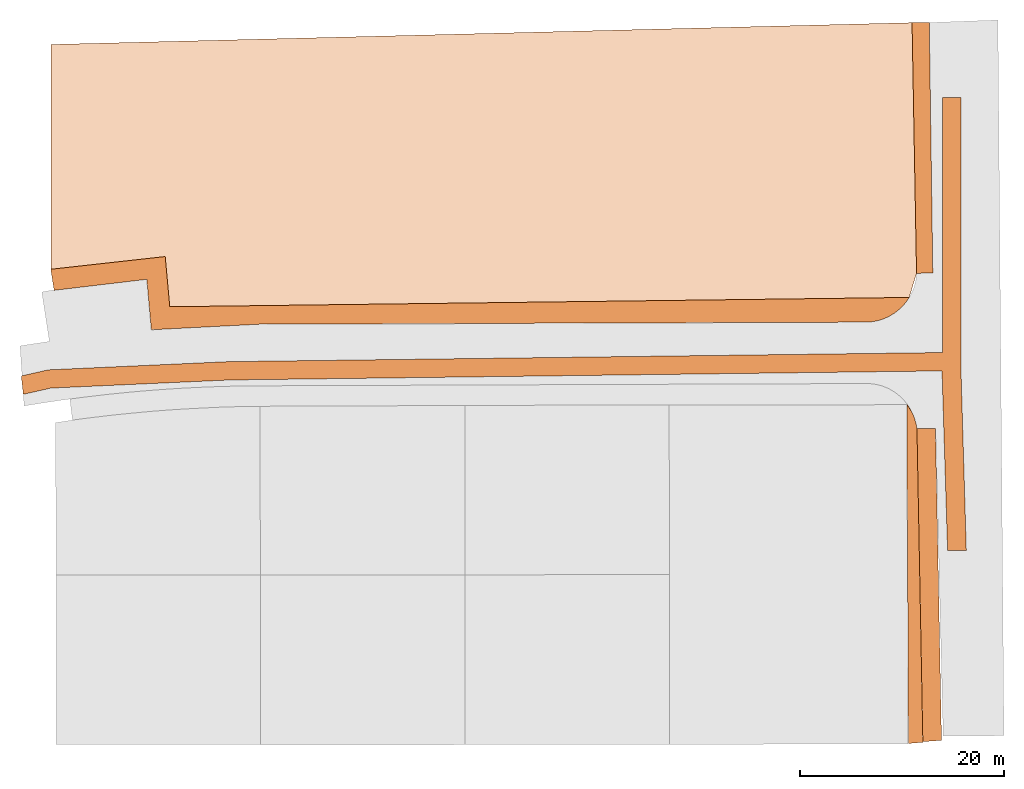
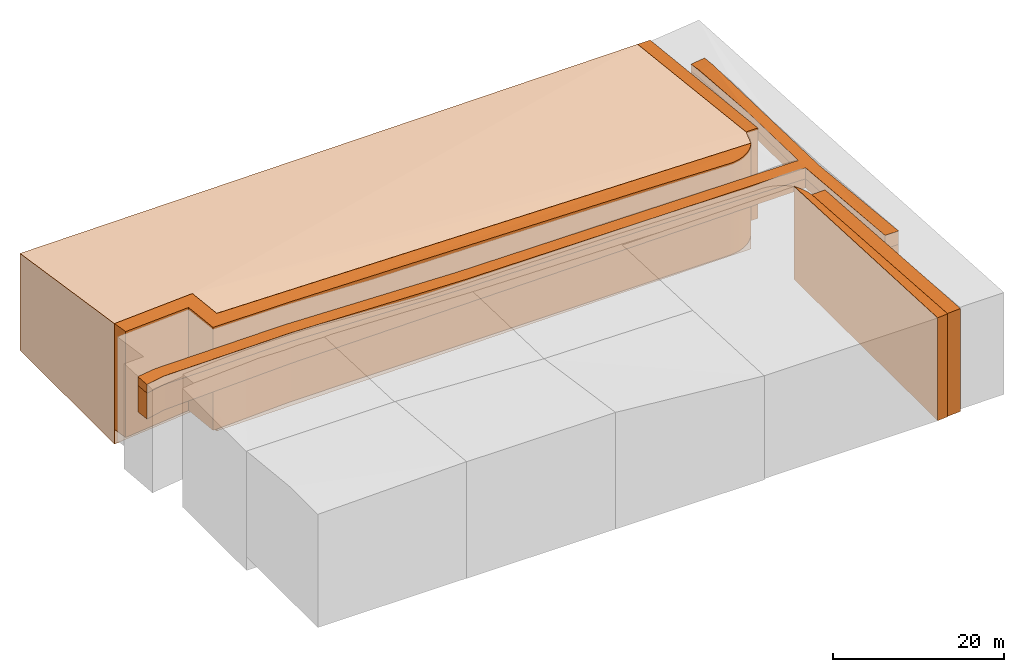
# Not in any storey, part 2 of 2: 7 geographic elements.
"""IFC4 model written with IfcOpenShell, lengths in metres."""

import ifcopenshell
import ifcopenshell.guid

model = None  # the IFC model being written
_history = None  # IfcOwnerHistory: only IFC2X3 demands one
_inside = {}  # id of a spatial element -> (the spatial element, [elements in it])
_under = {}  # id of a project, library or spatial element -> (it, [spatial elements below it])
_declared = {}  # id of a project -> (the project, [libraries it declares])
_typed = {}  # id of a type object -> (the type object, [elements of that type])
_made_of = {}  # id of a material, layer set ... -> (it, [elements and type objects made of it])


def new_model(schema):
    """Start an empty IFC model of exactly this schema.

    Asked for "IFC4X3", IfcOpenShell would pick the latest addendum, in which some entities
    have other attributes; the version numbers below select the first issue.
    IFC2X3 requires an IfcOwnerHistory on every rooted entity: one is made here for all.
    """
    global model, _history
    if schema == "IFC4X3":
        model = ifcopenshell.file(schema_version=(4, 3, 0, 0))
    else:
        model = ifcopenshell.file(schema=schema)
    _inside.clear()
    _under.clear()
    _declared.clear()
    _typed.clear()
    _made_of.clear()
    _history = None
    if model.schema == "IFC2X3":
        org = make("IfcOrganization", Name="unknown")
        user = make(
            "IfcPersonAndOrganization",
            ThePerson=make("IfcPerson", FamilyName="unknown"),
            TheOrganization=org,
        )
        app = make(
            "IfcApplication",
            ApplicationDeveloper=org,
            Version="unknown",
            ApplicationFullName="unknown",
            ApplicationIdentifier="unknown",
        )
        _history = make(
            "IfcOwnerHistory",
            OwningUser=user,
            OwningApplication=app,
            ChangeAction="ADDED",
            CreationDate=0,
        )
    return model


def make(cls, **values):
    """One entity of the class cls with the attributes given. An attribute that is None is left unset."""
    return model.create_entity(
        cls, **{name: value for name, value in values.items() if value is not None}
    )


def entity(cls, *values):
    """Any entity or typed value of the class cls, its attributes in the order of the schema. None: left unset."""
    e = model.create_entity(cls)
    for i, value in enumerate(values):
        if value is not None:
            e[i] = value
    return e


def rooted(cls, **values):
    """An entity with a GlobalId (a new one), such as an element, a storey or a relation."""
    return make(cls, GlobalId=ifcopenshell.guid.new(), OwnerHistory=_history, **values)


def si_unit(unit_type, name, prefix=None):
    """IfcSIUnit, for example si_unit("LENGTHUNIT", "METRE", prefix="MILLI")."""
    return make("IfcSIUnit", UnitType=unit_type, Prefix=prefix, Name=name)


def converted_unit(unit_type, name, factor, base, dimensions=None, offset=None):
    """IfcConversionBasedUnit, such as the inch: factor (a typed value) times the base unit."""
    return make(
        "IfcConversionBasedUnit"
        if offset is None
        else "IfcConversionBasedUnitWithOffset",
        ConversionOffset=offset,
        Dimensions=None
        if dimensions is None
        else entity("IfcDimensionalExponents", *dimensions),
        UnitType=unit_type,
        Name=name,
        ConversionFactor=make(
            "IfcMeasureWithUnit", ValueComponent=factor, UnitComponent=base
        ),
    )


def derived_unit(unit_type, elements):
    """IfcDerivedUnit: a product of units, each with its exponent."""
    return make(
        "IfcDerivedUnit",
        Elements=[
            make("IfcDerivedUnitElement", Unit=unit, Exponent=power)
            for unit, power in elements
        ],
        UnitType=unit_type,
    )


def assignment(units):
    """IfcUnitAssignment: the units of a project."""
    return None if units is None else make("IfcUnitAssignment", Units=units)


def point(xyz):
    """IfcCartesianPoint."""
    return None if xyz is None else make("IfcCartesianPoint", Coordinates=xyz)


def direction(xyz):
    """IfcDirection."""
    return None if xyz is None else make("IfcDirection", DirectionRatios=xyz)


def frame(location, z_axis=None, x_axis=None):
    """IfcAxis2Placement3D, a coordinate frame: its origin and axes. An axis left out is left unset."""
    return make(
        "IfcAxis2Placement3D",
        Location=point(location),
        Axis=direction(z_axis),
        RefDirection=direction(x_axis),
    )


def origin_with_axes():
    """The frame at (0, 0, 0) with the z axis (0, 0, 1) and the x axis (1, 0, 0) written out."""
    return frame((0.0, 0.0, 0.0), z_axis=(0.0, 0.0, 1.0), x_axis=(1.0, 0.0, 0.0))


def place(relative_to, where):
    """IfcLocalPlacement: puts the frame where relative to a parent placement (None: the world)."""
    return make(
        "IfcLocalPlacement", PlacementRelTo=relative_to, RelativePlacement=where
    )


def context(
    kind, dimensions, precision=None, world=None, true_north=None, identifier=None
):
    """IfcGeometricRepresentationContext, for example the 3D "Model" context."""
    return make(
        "IfcGeometricRepresentationContext",
        ContextIdentifier=identifier,
        ContextType=kind,
        CoordinateSpaceDimension=dimensions,
        Precision=precision,
        WorldCoordinateSystem=world,
        TrueNorth=true_north,
    )


def subcontext(parent, identifier, kind, view, scale=None):
    """IfcGeometricRepresentationSubContext, for example "Body" below "Model"."""
    return make(
        "IfcGeometricRepresentationSubContext",
        ContextIdentifier=identifier,
        ContextType=kind,
        ParentContext=parent,
        TargetScale=scale,
        TargetView=view,
    )


def project(units=None, contexts=None):
    """IfcProject with its units and contexts."""
    return rooted(
        "IfcProject",
        Name="project",
        RepresentationContexts=contexts,
        UnitsInContext=assignment(units),
    )


def spatial(cls, under=None, at=None, **own):
    """A site, building, storey or space (cls), placed at a placement, below another one or the project."""
    s = rooted(cls, ObjectPlacement=at, **own)
    if under is not None:
        _under.setdefault(under.id(), (under, []))[1].append(s)
    return s


def point_list(points):
    """IfcCartesianPointList2D or 3D."""
    cls = (
        "IfcCartesianPointList2D" if len(points[0]) == 2 else "IfcCartesianPointList3D"
    )
    return make(cls, CoordList=points)


def polygons(points, faces, closed=None, point_numbers=None):
    """IfcPolygonalFaceSet: a face is its outer loop, then its inner loops; points numbered from 1."""
    made = []
    for loops in faces:
        if len(loops) == 1:
            made.append(make("IfcIndexedPolygonalFace", CoordIndex=loops[0]))
        else:
            made.append(
                make(
                    "IfcIndexedPolygonalFaceWithVoids",
                    CoordIndex=loops[0],
                    InnerCoordIndices=loops[1:],
                )
            )
    return make(
        "IfcPolygonalFaceSet",
        Coordinates=point_list(points),
        Closed=closed,
        Faces=made,
        PnIndex=point_numbers,
    )


def shape(context_of_items, identifier, shape_type, items):
    """IfcShapeRepresentation: the items that make up one representation, for example the "Body"."""
    return make(
        "IfcShapeRepresentation",
        ContextOfItems=context_of_items,
        RepresentationIdentifier=identifier,
        RepresentationType=shape_type,
        Items=items,
    )


def material(Name=None, Category=None):
    """IfcMaterial."""
    return make("IfcMaterial", Name=Name, Category=Category)


def made_of(thing, what):
    """Note that an element or type object is made of a material, layer set ...; save() writes the relation."""
    if what is not None:
        _made_of.setdefault(what.id(), (what, []))[1].append(thing)
    return thing


def type_object(cls, material=None, **own):
    """A type object (cls), such as IfcWallType, which elements share."""
    return made_of(rooted(cls, **own), material)


def element(
    cls,
    number,
    at=None,
    inside=None,
    cuts=None,
    type_object=None,
    material=None,
    context=None,
    identifier="Body",
    shape_type=None,
    held_by="IfcProductDefinitionShape",
    body=None,
    shapes=None,
    **own,
):
    """One element of the class cls, such as IfcWall. Its Tag is "e" and its number.

    at: its placement. inside: the storey or other place that contains it. cuts: it is an
    opening in that element (IfcRelVoidsElement). A single representation is given by context,
    identifier, shape_type and body (its items); several are given by shapes. held_by: the class
    of the entity that holds the representations. save() writes the other relations.
    """
    e = rooted(cls, Tag="e%d" % number, ObjectPlacement=at, **own)
    if body is not None:
        shapes = [shape(context, identifier, shape_type, body)]
    if shapes is not None:
        e.Representation = make(held_by, Representations=shapes)
    if inside is not None:
        _inside.setdefault(inside.id(), (inside, []))[1].append(e)
    if cuts is not None:
        rooted(
            "IfcRelVoidsElement", RelatingBuildingElement=cuts, RelatedOpeningElement=e
        )
    if type_object is not None:
        _typed.setdefault(type_object.id(), (type_object, []))[1].append(e)
    return made_of(e, material)


def aggregate(whole, parts):
    """IfcRelAggregates: a whole, such as a stair, and the parts it consists of."""
    return rooted("IfcRelAggregates", RelatingObject=whole, RelatedObjects=parts)


def save(model, path):
    """Write the relations noted so far, then the file.

    IfcRelAggregates (storeys below a building ...), IfcRelContainedInSpatialStructure (elements
    in a storey), IfcRelDefinesByType, IfcRelAssociatesMaterial and IfcRelDeclares: one each for
    every whole, place, type object, material and project.
    """
    for whole, parts in _under.values():
        aggregate(whole, parts)
    for where, things in _inside.values():
        rooted(
            "IfcRelContainedInSpatialStructure",
            RelatedElements=things,
            RelatingStructure=where,
        )
    for kind, things in _typed.values():
        rooted("IfcRelDefinesByType", RelatedObjects=things, RelatingType=kind)
    for what, things in _made_of.values():
        rooted("IfcRelAssociatesMaterial", RelatedObjects=things, RelatingMaterial=what)
    for by, libraries in _declared.values():
        rooted("IfcRelDeclares", RelatingContext=by, RelatedDefinitions=libraries)
    model.write(path)


model = new_model("IFC4")

# Units and contexts
model_context = context("Model", 3, precision=1e-05, world=origin_with_axes(), true_north=direction((0.0, 1.0)))
body_context = subcontext(model_context, "Body", "Model", "MODEL_VIEW")
ifc_project = project(units=[si_unit("LENGTHUNIT", "METRE"), si_unit("AREAUNIT", "SQUARE_METRE"), si_unit("VOLUMEUNIT", "CUBIC_METRE"), converted_unit("PLANEANGLEUNIT", "DEGREE", entity("IfcPlaneAngleMeasure", 0.0174532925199), si_unit("PLANEANGLEUNIT", "RADIAN"), dimensions=[0, 0, 0, 0, 0, 0, 0]), si_unit("SOLIDANGLEUNIT", "STERADIAN"), converted_unit("TIMEUNIT", "Year", entity("IfcTimeMeasure", 31556926.0), si_unit("TIMEUNIT", "SECOND"), dimensions=[0, 0, 1, 0, 0, 0, 0]), si_unit("MASSUNIT", "GRAM", prefix="KILO"), si_unit("THERMODYNAMICTEMPERATUREUNIT", "DEGREE_CELSIUS"), si_unit("LUMINOUSINTENSITYUNIT", "LUMEN"), si_unit("ENERGYUNIT", "JOULE", prefix="MEGA"), derived_unit("THERMALCONDUCTANCEUNIT", [(si_unit("POWERUNIT", "WATT"), 1), (si_unit("LENGTHUNIT", "METRE"), -1), (si_unit("THERMODYNAMICTEMPERATUREUNIT", "KELVIN"), -1)]), derived_unit("SPECIFICHEATCAPACITYUNIT", [(si_unit("ENERGYUNIT", "JOULE"), 1), (si_unit("MASSUNIT", "GRAM", prefix="KILO"), -1), (si_unit("THERMODYNAMICTEMPERATUREUNIT", "KELVIN"), -1)]), derived_unit("MASSDENSITYUNIT", [(si_unit("MASSUNIT", "GRAM", prefix="KILO"), 1), (si_unit("VOLUMEUNIT", "CUBIC_METRE"), -1)])], contexts=[model_context])

# Site
site_placement = place(None, origin_with_axes())
site = spatial("IfcSite", under=ifc_project, at=site_placement, Name="Site", CompositionType="ELEMENT")

# Geographic elements
ifc_material = material(Name="Env. - Terre")
geographic_element_type = type_object("IfcGeographicElementType", Name="Env. - Terre", PredefinedType="NOTDEFINED")
geographic_element_1_placement = place(site_placement, frame((2.46168446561, 12.806106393, 24.3240901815), z_axis=(0.0, 0.0, 1.0), x_axis=(1.0, 0.0, 0.0)))
element("IfcGeographicElement", 1, at=geographic_element_1_placement, inside=site, type_object=geographic_element_type, material=ifc_material, Name="TERRAIN-002", PredefinedType="NOTDEFINED", context=body_context, shape_type="Tessellation", body=[
    polygons([(1.6969577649, 24.6472685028, 10.6743883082), (0.0, 24.6346256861, 10.6743883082), (0.442109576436, 0.0, 12.9269394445), (0.0, 24.6346256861, 0.0), (1.6969577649, 24.6472685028, 0.0), (0.442109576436, 0.0, 0.0), (2.04093963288, 0.0301482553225, 12.9269394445), (2.04093963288, 0.0301482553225, 0.0)], [[[1, 2, 3]], [[4, 2, 1, 5]], [[6, 3, 2, 4]], [[7, 1, 3]], [[5, 1, 7, 8]], [[6, 4, 5, 8]], [[8, 7, 3, 6]]], closed=True),
])
geographic_element_2_placement = place(site_placement, frame((1.95295697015, -33.4000822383, 24.3240901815), z_axis=(0.0, 0.0, 1.0), x_axis=(1.0, 0.0, 0.0)))
element("IfcGeographicElement", 2, at=geographic_element_2_placement, inside=site, type_object=geographic_element_type, material=ifc_material, Name="TERRAIN-001", PredefinedType="NOTDEFINED", context=body_context, shape_type="Tessellation", body=[
    polygons([(0.147337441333, 0.0, 14.6948484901), (0.990224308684, 30.9352220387, 13.2481073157), (0.0, 33.3676027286, 13.3172809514), (1.5702263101, 0.117725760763, 14.6948484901), (0.750361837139, 31.9459342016, 13.2481073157), (0.147337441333, 0.0, 0.0), (0.0, 33.3676027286, 0.0), (0.990224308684, 30.9352220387, 0.0), (1.5702263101, 0.117725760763, 0.0), (0.82090533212, 31.7257423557, 13.2481073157), (0.974468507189, 31.0497513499, 13.2481073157), (0.933063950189, 31.2772299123, 13.2481073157), (0.881844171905, 31.5027013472, 13.2481073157), (0.670346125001, 32.1628634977, 13.2481073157), (0.0553366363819, 33.2963166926, 13.2481073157), (0.0553366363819, 33.2963166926, 0.0), (0.134047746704, 33.1845743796, 0.0), (0.258826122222, 32.9899177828, 0.0), (0.375055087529, 32.7900386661, 0.0), (0.482516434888, 32.5853122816, 0.0), (0.581008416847, 32.3761229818, 0.0), (0.670346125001, 32.1628634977, 0.0), (0.750361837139, 31.9459342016, 0.0), (0.82090533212, 31.7257423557, 0.0), (0.881844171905, 31.5027013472, 0.0), (0.933063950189, 31.2772299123, 0.0), (0.974468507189, 31.0497513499, 0.0), (0.581008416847, 32.3761229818, 13.2481073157), (0.134047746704, 33.1845743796, 13.2481073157), (0.258826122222, 32.9899177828, 13.2481073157), (0.375055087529, 32.7900386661, 13.2481073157), (0.482516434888, 32.5853122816, 13.2481073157)], [[[1, 2, 3]], [[4, 2, 1]], [[3, 2, 5]], [[6, 1, 3, 7]], [[8, 2, 4, 9]], [[9, 4, 1, 6]], [[10, 5, 2, 11, 12, 13]], [[5, 14, 3]], [[7, 3, 15, 16]], [[16, 17, 18, 19, 20, 21, 22, 23, 24, 25, 26, 27, 8, 9, 6, 7]], [[27, 11, 2, 8]], [[23, 5, 10, 24]], [[26, 12, 11, 27]], [[25, 13, 12, 26]], [[24, 10, 13, 25]], [[22, 14, 5, 23]], [[14, 28, 3]], [[15, 3, 29]], [[16, 15, 29, 17]], [[17, 29, 30, 18]], [[18, 30, 31, 19]], [[19, 31, 32, 20]], [[20, 32, 28, 21]], [[21, 28, 14, 22]], [[28, 32, 3]], [[30, 29, 3]], [[31, 30, 3]], [[32, 31, 3]]], closed=True),
])
geographic_element_3_placement = place(site_placement, frame((-82.1797845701, 7.2564483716, 24.3240901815), z_axis=(0.0, 0.0, 1.0), x_axis=(1.0, 0.0, 0.0)))
element("IfcGeographicElement", 3, at=geographic_element_3_placement, inside=site, type_object=geographic_element_type, material=ifc_material, Name="TERRAIN-001", PredefinedType="NOTDEFINED", context=body_context, shape_type="Tessellation", body=[
    polygons([(11.2480813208, 7.19648579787, 14.7128924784), (0.0, 5.94540242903, 15.1150237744), (9.43821347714, 4.9598742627, 14.7128924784), (0.0, 5.94540242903, 0.0), (11.2480813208, 7.19648579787, 0.0), (0.327218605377, 3.87691052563, 15.1150237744), (9.88625545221, 0.0, 14.7128924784), (11.6945672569, 2.26510649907, 14.7128924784), (0.327218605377, 3.87691052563, 0.0), (11.6945672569, 2.26510649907, 0.0), (84.3633383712, 3.18102994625, 0.0), (84.2704614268, 3.03086588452, 0.0), (84.1435466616, 2.84567339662, 0.0), (84.0085081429, 2.66631840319, 0.0), (83.8656139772, 2.49315699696, 0.0), (83.7151478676, 2.32653297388, 0.0), (83.5574085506, 2.16677715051, 0.0), (83.3927092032, 2.01420670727, 0.0), (83.2213768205, 1.86912455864, 0.0), (83.0437515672, 1.73181875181, 0.0), (82.8601861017, 1.60256189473, 0.0), (82.6710448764, 1.48161061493, 0.0), (82.4767034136, 1.36920504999, 0.0), (82.2775475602, 1.26556837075, 0.0), (82.0739727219, 1.17090633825, 0.0), (81.8663830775, 1.08540689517, 0.0), (81.6551907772, 1.00923979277, 0.0), (81.4408151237, 0.942556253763, 0.0), (81.2236817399, 0.885488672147, 0.0), (81.0042217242, 0.838150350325, 0.0), (80.7828707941, 0.800635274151, 0.0), (80.5600684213, 0.773017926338, 0.0), (80.3362569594, 0.755353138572, 0.0), (80.2240688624, 0.751514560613, 0.0), (20.6507647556, 0.555290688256, 0.0), (9.88625545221, 0.0, 0.0), (9.43821347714, 4.9598742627, 0.0), (20.6507647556, 0.555290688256, 14.2697889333), (84.3633383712, 3.18102994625, 13.0267088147), (84.2704614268, 3.03086588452, 13.0282535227), (84.1435466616, 2.84567339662, 13.0302641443), (84.0085081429, 2.66631840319, 13.0323148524), (83.8656139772, 2.49315699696, 13.0344015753), (83.7151478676, 2.32653297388, 13.0365201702), (83.5574085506, 2.16677715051, 13.0386664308), (83.3927092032, 2.01420670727, 13.0408360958), (83.2213768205, 1.86912455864, 13.0430248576), (83.0437515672, 1.73181875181, 13.0452283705), (82.8601861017, 1.60256189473, 13.0474422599), (82.6710448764, 1.48161061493, 13.04966213), (82.4767034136, 1.36920504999, 13.0518835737), (82.2775475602, 1.26556837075, 13.0541021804), (82.0739727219, 1.17090633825, 13.0563135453), (81.8663830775, 1.08540689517, 13.058513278), (81.6551907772, 1.00923979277, 13.060697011), (81.4408151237, 0.942556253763, 13.0628604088), (81.2236817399, 0.885488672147, 13.0649991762), (81.0042217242, 0.838150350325, 13.0671090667), (80.7828707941, 0.800635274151, 13.0691858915), (80.5600684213, 0.773017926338, 13.0712255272), (80.3362569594, 0.755353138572, 13.0732239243), (80.2240688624, 0.751514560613, 13.0742005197), (68.7534816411, 0.71373248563, 13.4005013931)], [[[1, 2, 3]], [[4, 2, 1, 5]], [[6, 3, 2]], [[3, 7, 8, 1]], [[9, 6, 2, 4]], [[5, 1, 8, 10]], [[9, 4, 5, 10, 11, 12, 13, 14, 15, 16, 17, 18, 19, 20, 21, 22, 23, 24, 25, 26, 27, 28, 29, 30, 31, 32, 33, 34, 35, 36, 37]], [[37, 3, 6, 9]], [[36, 7, 3, 37]], [[7, 38, 8]], [[10, 8, 39, 11]], [[11, 39, 40, 12]], [[12, 40, 41, 13]], [[13, 41, 42, 14]], [[14, 42, 43, 15]], [[15, 43, 44, 16]], [[16, 44, 45, 17]], [[17, 45, 46, 18]], [[18, 46, 47, 19]], [[19, 47, 48, 20]], [[20, 48, 49, 21]], [[21, 49, 50, 22]], [[22, 50, 51, 23]], [[23, 51, 52, 24]], [[24, 52, 53, 25]], [[25, 53, 54, 26]], [[26, 54, 55, 27]], [[27, 55, 56, 28]], [[28, 56, 57, 29]], [[29, 57, 58, 30]], [[30, 58, 59, 31]], [[31, 59, 60, 32]], [[32, 60, 61, 33]], [[33, 61, 62, 34]], [[34, 62, 63, 38, 35]], [[35, 38, 7, 36]], [[38, 39, 8]], [[62, 61, 60, 59, 58, 57, 56, 55, 54, 53, 52, 51, 50, 49, 48, 47, 46, 45, 44, 43, 42, 41, 40, 39]], [[63, 62, 39]], [[63, 39, 38]]], closed=True),
])
geographic_element_4_placement = place(site_placement, frame((2.94318127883, -33.2193872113, 24.3240901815), z_axis=(0.0, 0.0, 1.0), x_axis=(1.0, 0.0, 0.0)))
element("IfcGeographicElement", 4, at=geographic_element_4_placement, inside=site, type_object=geographic_element_type, material=ifc_material, Name="TERRAIN-001", PredefinedType="NOTDEFINED", context=body_context, shape_type="Tessellation", body=[
    polygons([(0.0, 30.7545270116, 13.2481073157), (2.41729655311, 0.126249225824, 14.6948484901), (1.82202439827, 30.7797153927, 13.2481073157), (0.581958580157, 0.0, 14.6948484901), (1.82202439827, 30.7797153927, 0.0), (2.41729655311, 0.126249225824, 0.0), (0.0, 30.7545270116, 0.0), (0.581958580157, 0.0, 0.0)], [[[1, 2, 3]], [[4, 2, 1]], [[5, 3, 2, 6]], [[7, 1, 3, 5]], [[6, 2, 4, 8]], [[8, 4, 1, 7]], [[7, 5, 6, 8]]], closed=True),
])
geographic_element_5_placement = place(site_placement, frame((-82.1797845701, 9.52155487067, 22.2291680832), z_axis=(0.0, 0.0, 1.0), x_axis=(1.0, 0.0, 0.0)))
element("IfcGeographicElement", 5, at=geographic_element_5_placement, inside=site, type_object=geographic_element_type, material=ifc_material, Name="TERRAIN-009", PredefinedType="NOTDEFINED", context=body_context, shape_type="Tessellation", body=[
    polygons([(11.2480813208, 4.9313792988, 16.7616567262), (11.6945672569, 0.0, 16.8137882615), (84.3633383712, 0.91592344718, 15.121630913), (11.6945672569, 0.0, 0.0), (11.2480813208, 4.9313792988, 0.0), (84.3633383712, 0.91592344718, 0.0), (85.0835786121, 3.28455152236, 15.0254877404), (0.0, 3.68029592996, 17.2034607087), (0.0, 3.68029592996, 0.0), (0.0, 25.7742747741, 0.0), (84.6414690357, 27.9191772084, 0.0), (85.0835786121, 3.28455152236, 0.0), (84.6414690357, 27.9191772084, 12.7693104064), (0.0, 25.7742747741, 13.8352182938)], [[[1, 2, 3]], [[4, 2, 1, 5]], [[6, 3, 2, 4]], [[3, 7, 1]], [[5, 1, 8, 9]], [[9, 10, 11, 12, 6, 4, 5]], [[12, 7, 3, 6]], [[7, 13, 1]], [[1, 14, 8]], [[9, 8, 14, 10]], [[10, 14, 13, 11]], [[11, 13, 7, 12]], [[1, 13, 14]]], closed=True),
])
geographic_element_6_placement = place(site_placement, frame((-85.0809303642, -14.4100756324, 34.2069392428), z_axis=(0.0, 0.0, 1.0), x_axis=(1.0, 0.0, 0.0)))
element("IfcGeographicElement", 6, at=geographic_element_6_placement, inside=site, type_object=geographic_element_type, material=ifc_material, Name="TERRAIN-010", PredefinedType="NOTDEFINED", context=body_context, shape_type="Tessellation", body=[
    polygons([(0.199647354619, 15.3468266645, 3.68394100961), (0.353451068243, 15.35729225, 3.68217641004), (0.0, 17.1292253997, 3.79934474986), (0.353451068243, 15.35729225, 0.0), (0.199647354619, 15.3468266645, 0.0), (2.89679125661, 15.9349381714, 3.60737597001), (0.0, 17.1292253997, 0.0), (2.89679125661, 15.9349381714, 0.0), (2.65384606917, 17.7319695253, 0.0), (20.4274962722, 18.5398627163, 0.0), (90.5472118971, 19.4331075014, 0.0), (90.5160149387, 31.6163617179, 0.0), (90.5472118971, 42.5687761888, 0.0), (90.5160149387, 44.5043130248, 0.0), (92.3534212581, 44.5043130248, 0.0), (92.3534212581, 17.6497606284, 0.0), (92.8747971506, 0.0, 0.0), (91.0330474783, 0.0, 0.0), (90.486010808, 17.6259719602, 0.0), (20.4800217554, 16.7341759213, 0.0), (2.65384606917, 17.7319695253, 3.62601859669), (20.4800217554, 16.7341759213, 3.13550635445), (20.4274962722, 18.5398627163, 3.13550635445), (44.1088091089, 18.8415354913, 2.23984672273), (68.4815576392, 19.1520163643, 1.88664844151), (90.5472118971, 19.4331075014, 1.29252140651), (90.5160149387, 31.6163617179, 1.27741121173), (90.5472118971, 42.5687761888, 0.571371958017), (90.5160149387, 44.5043130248, 0.360618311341), (92.3534212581, 44.5043130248, 0.360618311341), (92.3534212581, 42.6040488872, 0.571371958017), (92.3534212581, 17.6497606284, 1.29252140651), (92.8747971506, 0.0, 1.78984324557), (91.0330474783, 0.0, 1.78984324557), (90.486010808, 17.6259719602, 1.29252140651), (68.504564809, 17.3459535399, 1.88664844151), (44.1318162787, 17.0354726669, 2.23984672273)], [[[1, 2, 3]], [[4, 2, 1, 5]], [[2, 6, 3]], [[5, 1, 3, 7]], [[8, 6, 2, 4]], [[9, 10, 11, 12, 13, 14, 15, 16, 17, 18, 19, 20, 8, 4, 5, 7]], [[21, 3, 6]], [[7, 3, 21, 9]], [[20, 22, 6, 8]], [[9, 21, 23, 10]], [[10, 23, 24, 25, 26, 11]], [[11, 26, 27, 12]], [[12, 27, 28, 13]], [[13, 28, 29, 14]], [[14, 29, 30, 15]], [[15, 30, 31, 32, 16]], [[16, 32, 33, 17]], [[17, 33, 34, 18]], [[18, 34, 35, 19]], [[19, 35, 36, 37, 22, 20]], [[21, 6, 23]], [[22, 23, 6]], [[24, 23, 22]], [[37, 36, 25, 24]], [[26, 25, 35]], [[32, 27, 26]], [[28, 27, 31]], [[29, 28, 31]], [[30, 29, 31]], [[32, 31, 27]], [[33, 32, 34]], [[35, 34, 32]], [[36, 35, 25]], [[22, 37, 24]], [[32, 26, 35]]], closed=True),
])
geographic_element_7_placement = place(site_placement, frame((-85.0809303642, -14.4100756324, 34.2069392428), z_axis=(0.0, 0.0, 1.0), x_axis=(1.0, 0.0, 0.0)))
element("IfcGeographicElement", 7, at=geographic_element_7_placement, inside=site, type_object=geographic_element_type, material=ifc_material, Name="DEBLAI TRANCHÉE", PredefinedType="NOTDEFINED", context=body_context, shape_type="Tessellation", body=[
    polygons([(0.199647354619, 15.3468266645, 4.92099941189), (0.353451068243, 15.35729225, 4.91923481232), (0.0, 17.1292253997, 5.03640315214), (0.353451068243, 15.35729225, 0.0), (0.199647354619, 15.3468266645, 0.0), (2.89679125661, 15.9349381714, 4.84443437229), (0.0, 17.1292253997, 0.0), (2.89679125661, 15.9349381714, 0.0), (2.65384606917, 17.7319695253, 0.0), (20.4274962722, 18.5398627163, 0.0), (90.5472118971, 19.4331075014, 0.0), (90.5160149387, 31.6163617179, 0.0), (90.5472118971, 42.5687761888, 0.0), (90.5160149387, 44.5043130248, 0.0), (92.3534212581, 44.5043130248, 0.0), (92.3534212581, 17.6497606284, 0.0), (92.8747971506, 0.0, 0.0), (91.0330474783, 0.0, 0.0), (90.486010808, 17.6259719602, 0.0), (20.4800217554, 16.7341759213, 0.0), (2.65384606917, 17.7319695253, 4.86307699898), (20.4800217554, 16.7341759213, 4.37256475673), (20.4274962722, 18.5398627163, 4.37256475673), (44.1088091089, 18.8415354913, 3.47690512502), (68.4815576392, 19.1520163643, 3.12370684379), (90.5472118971, 19.4331075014, 2.8108652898), (90.5160149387, 31.6163617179, 2.51446961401), (90.5472118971, 42.5687761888, 1.63602919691), (90.5160149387, 44.5043130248, 1.36348080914), (92.3534212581, 44.5043130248, 1.59767671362), (92.3534212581, 42.6040488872, 1.8084303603), (92.3534212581, 17.6497606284, 2.52957980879), (92.8747971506, 0.0, 3.69571196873), (91.0330474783, 0.0, 3.7166910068), (90.486010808, 17.6259719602, 2.85859567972), (68.504564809, 17.3459535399, 3.12370684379), (44.1318162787, 17.0354726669, 3.47690512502)], [[[1, 2, 3]], [[4, 2, 1, 5]], [[2, 6, 3]], [[5, 1, 3, 7]], [[8, 6, 2, 4]], [[9, 10, 11, 12, 13, 14, 15, 16, 17, 18, 19, 20, 8, 4, 5, 7]], [[21, 3, 6]], [[7, 3, 21, 9]], [[20, 22, 6, 8]], [[9, 21, 23, 10]], [[10, 23, 24, 25, 26, 11]], [[11, 26, 27, 12]], [[12, 27, 28, 13]], [[13, 28, 29, 14]], [[14, 29, 30, 15]], [[15, 30, 31, 32, 16]], [[16, 32, 33, 17]], [[17, 33, 34, 18]], [[18, 34, 35, 19]], [[19, 35, 36, 37, 22, 20]], [[21, 6, 23]], [[22, 23, 6]], [[24, 23, 22]], [[37, 36, 25, 24]], [[26, 25, 35]], [[32, 27, 26]], [[28, 27, 31]], [[29, 28, 31]], [[30, 29, 31]], [[32, 31, 27]], [[33, 32, 34]], [[35, 34, 32]], [[36, 35, 25]], [[22, 37, 24]], [[32, 26, 35]]], closed=True),
])

save(model, "model.ifc")
